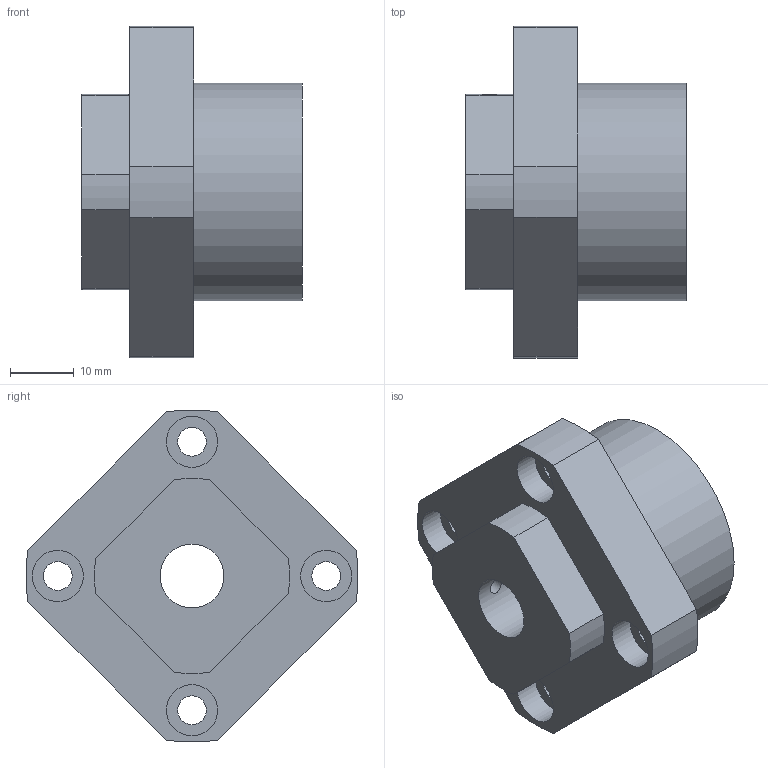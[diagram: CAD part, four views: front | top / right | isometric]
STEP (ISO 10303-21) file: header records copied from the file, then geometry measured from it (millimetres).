
FILE_DESCRIPTION(/* description */ (''),/* implementation_level */ '2;1');
FILE_NAME(/* name */ 'D:\Опора винта фланцевая FK 01.000\Модели\Опора фланцевая FK10 01.00.stp',/* time_stamp */ '2017-01-26T15:49:07+03:00',/* author */ ('t1'),/* organization */ ('TraceParts S.A.'),/* preprocessor_version */ 'ST-DEVELOPER v16.1',/* originating_system */ 'Autodesk Inventor 2016',/* authorisation */ '');
FILE_SCHEMA (('AUTOMOTIVE_DESIGN { 1 0 10303 214 3 1 1 }'));
Length unit declared in the file: millimetre
Products named in the file (1): Опора \X2\0444043B0430043D04460435
04320430044F\X0\ FK10 01.00
Bounding box: 34.5 x 51.93 x 51.93 mm (x, y, z)
Volume: 33113.7 mm3; surface area: 9075.3 mm2
Topology: 1 solids, 1 shells, 36 faces, 90 edges, 62 vertices
Faces by surface type: cylinder 19, plane 16, cone 1
Full cylindrical faces by diameter (mm): 2.459 x1, 4.5 x4, 8 x4, 10 x1, 34 x1
Entity records: 1111 total; most frequent: CARTESIAN_POINT 249, DIRECTION 180, ORIENTED_EDGE 144, AXIS2_PLACEMENT_3D 74, EDGE_CURVE 72, EDGE_LOOP 66, VERTEX_POINT 56, CIRCLE 37
